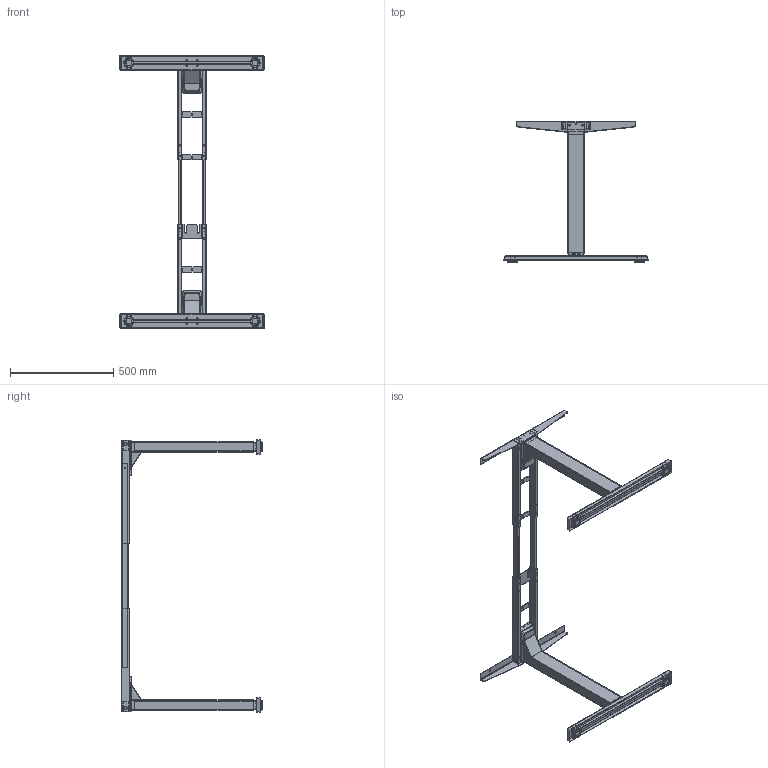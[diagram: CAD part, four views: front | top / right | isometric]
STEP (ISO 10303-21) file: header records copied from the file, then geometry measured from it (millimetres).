
FILE_DESCRIPTION((''),'2;1');
FILE_NAME('TS-R13R_ASM_1_ASM','2020-01-06T09:22:02',('Administrator'),('捷昌驱动'),'CREO PARAMETRIC BY PTC INC, 2018500','CREO PARAMETRIC BY PTC INC, 2018500','');
FILE_SCHEMA(('CONFIG_CONTROL_DESIGN'));
Products named in the file (25): TS-R13R_1_1; TS-R13R_2_1; NEIGUAN_2-455_1; 3_1_1_1_1_1-458_1; WAIGUAN_2-459_1; 2_1_1_1_1_1_2-460_1; MANIFOLD_SOLID_BREP_1686_2-462_; MANIFOLD_SOLID_BREP_1686_2-463_; MANIFOLD_SOLID_BREP_1685_2-464_; ZHICHENGKUAI_2-465_1; WAIGUAN_2-466_1; MANIFOLD_SOLID_BREP_1689_2-467_; MANIFOLD_SOLID_BREP_1689_2-468_; PRT1342_1_1_1_1_1-469_1; ZHICHENGKUAI_2-470_1; MANIFOLD_SOLID_BREP_1685_2-471_; NEIGUAN_2-472_1; TS-R13R_28_1; TS-R13R_29_1; TS-R13R_30_1; TS-R13R_31_1; TS-R13R_32_1; TS-R13R_33_1; TS-R13R_34_1; TS-R13R_ASM_1_ASM
Assembly tree (24 placements, depth 2):
  TS-R13R_ASM_1_ASM
    TS-R13R_1_1
    TS-R13R_2_1
    NEIGUAN_2-455_1
    3_1_1_1_1_1-458_1
    WAIGUAN_2-459_1
    2_1_1_1_1_1_2-460_1
    MANIFOLD_SOLID_BREP_1686_2-462_
    MANIFOLD_SOLID_BREP_1686_2-463_
    MANIFOLD_SOLID_BREP_1685_2-464_
    ZHICHENGKUAI_2-465_1
    WAIGUAN_2-466_1
    MANIFOLD_SOLID_BREP_1689_2-467_
    MANIFOLD_SOLID_BREP_1689_2-468_
    PRT1342_1_1_1_1_1-469_1
    ZHICHENGKUAI_2-470_1
    MANIFOLD_SOLID_BREP_1685_2-471_
    NEIGUAN_2-472_1
    TS-R13R_28_1
    TS-R13R_29_1
    TS-R13R_30_1
    TS-R13R_31_1
    TS-R13R_32_1
    TS-R13R_33_1
    TS-R13R_34_1
Bounding box: 700 x 685.49 x 1322 mm (x, y, z)
Volume: 2875092.3 mm3; surface area: 2779611.1 mm2
Topology: 24 solids, 28 shells, 1296 faces, 3602 edges, 2371 vertices
Faces by surface type: cylinder 612, plane 488, bspline 92, torus 40, cone 32, sphere 28, extrusion 4
Entity records: 58174 total; most frequent: CARTESIAN_POINT 24065, ORIENTED_EDGE 7148, DIRECTION 6958, EDGE_CURVE 3574, AXIS2_PLACEMENT_3D 2547, VERTEX_POINT 2371, VECTOR 1864, LINE 1860
